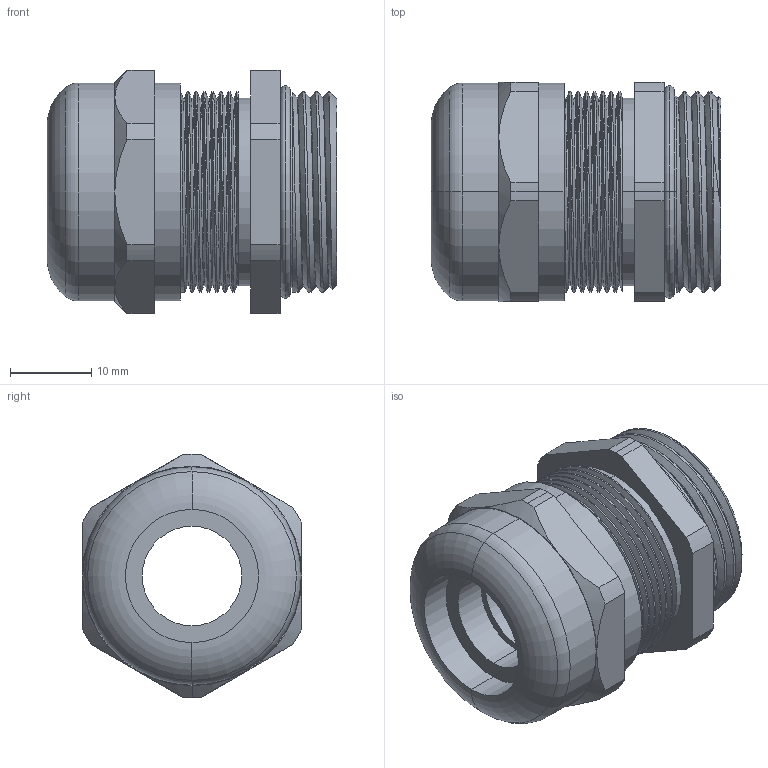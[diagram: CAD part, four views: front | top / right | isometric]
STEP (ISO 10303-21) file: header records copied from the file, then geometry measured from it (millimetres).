
FILE_DESCRIPTION (( 'STEP AP214' ), '1' );
FILE_NAME ('MCGB-M25.STEP', '2007-02-16T22:24:21', ( 'Mencom' ), ( 'Mencom Corporation' ), 'SwSTEP 2.0', 'SolidWorks 2007', '' );
FILE_SCHEMA (( 'AUTOMOTIVE_DESIGN' ));
Length unit declared in the file: inch
Products named in the file (1): MCGB-M25
Bounding box: 35.67 x 27 x 29.97 mm (x, y, z)
Volume: 13803.9 mm3; surface area: 6802.3 mm2
Topology: 2 solids, 2 shells, 106 faces, 271 edges, 175 vertices
Faces by surface type: cylinder 54, plane 27, cone 10, torus 8, bspline 7
Entity records: 6418 total; most frequent: CARTESIAN_POINT 2578, ORIENTED_EDGE 542, DIRECTION 484, EDGE_CURVE 271, AXIS2_PLACEMENT_3D 193, VERTEX_POINT 175, EDGE_LOOP 116, UNCERTAINTY_MEASURE_WITH_UNIT 109
